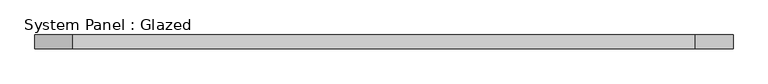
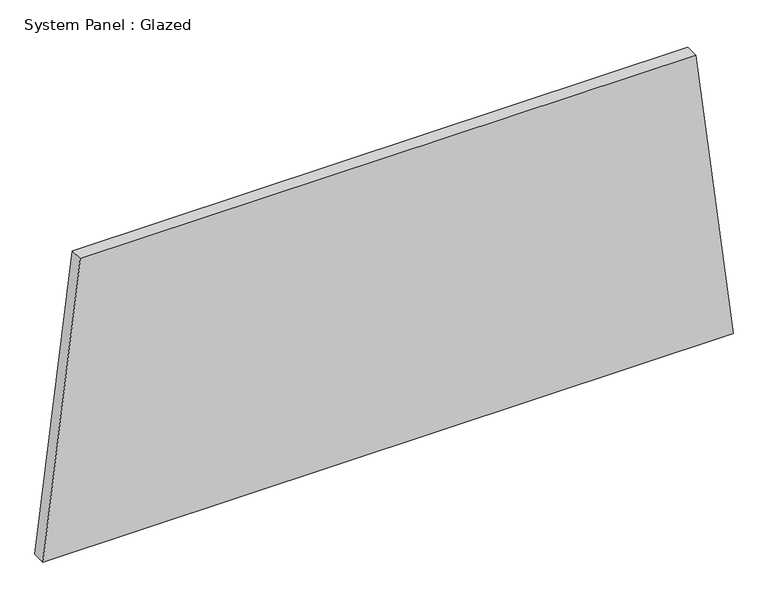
"""IFC4 building model written with IfcOpenShell, lengths in millimetres: plate geometry, System Panel : Glazed."""

from ifc_helpers import new_model, si_unit, frame, origin, place, context, project, spatial, polyline, outline, extrude, source, transform, mapped, element, save


def system_panel_glazed_ffd0fcf6(model_context):
    return source(origin(), model_context, "Body", "SweptSolid", [
        extrude(outline(polyline([(0.0, -649.9498812), (0.0, 649.9498812), (579.7498878, 579.5119442), (579.7498878, -579.5119442), (0.0, -649.9498812)])), frame((0.0, -44.45, 0.0), z_axis=(0.0, 1.0, 0.0), x_axis=(0.0, 0.0, 1.0)), (0.0, 0.0, 1.0), 25.4),
    ])


if __name__ == "__main__":
    model = new_model("IFC4")
    model_context = context("Model", 3, world=origin())
    ifc_project = project(units=[si_unit("LENGTHUNIT", "METRE", prefix="MILLI")], contexts=[model_context])
    site = spatial("IfcSite", under=ifc_project)
    building = spatial("IfcBuilding", under=site)
    placement = place(None, origin())
    system_panel_glazed_shape = system_panel_glazed_ffd0fcf6(model_context)
    element("IfcPlate", 1, ObjectType="System Panel : Glazed", at=placement, inside=building, context=model_context, shape_type="MappedRepresentation", body=[
        mapped(system_panel_glazed_shape, transform((0.0, 0.0, 0.0), x_axis=(1.0, 0.0, 0.0), y_axis=(0.0, 1.0, 0.0), z_axis=(0.0, 0.0, 1.0))),
    ])
    save(model, "model.ifc")
